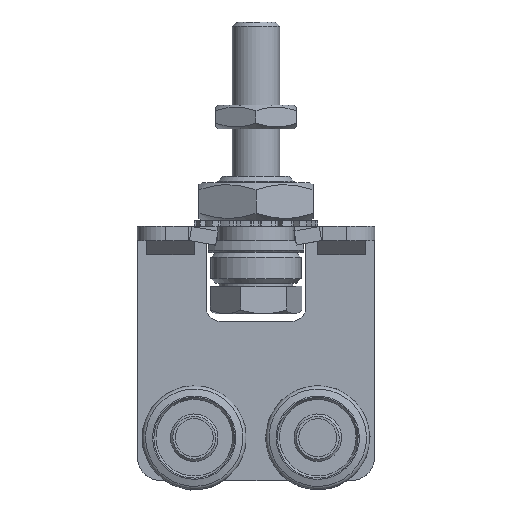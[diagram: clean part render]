
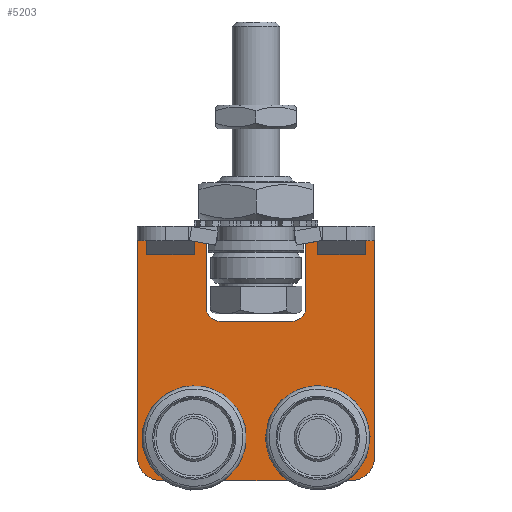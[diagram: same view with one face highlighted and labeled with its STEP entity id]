
A CAD part, top view. The second image highlights one B-rep face of the part: STEP entity #5203.
In plain terms, the highlighted planar face has unit normal (0, 0, 1).
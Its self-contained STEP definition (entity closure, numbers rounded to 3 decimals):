
#177=FACE_BOUND('',#1024,.T.);
#178=FACE_BOUND('',#1025,.T.);
#249=CIRCLE('',#5508,3.05);
#251=CIRCLE('',#5514,3.05);
#253=CIRCLE('',#5520,5.);
#255=CIRCLE('',#5524,5.);
#257=CIRCLE('',#5534,3.);
#259=CIRCLE('',#5538,3.);
#708=FACE_OUTER_BOUND('',#1023,.T.);
#1023=EDGE_LOOP('',(#3679,#3680,#3681,#3682,#3683,#3684,#3685,#3686,#3687,
#3688,#3689,#3690,#3691,#3692,#3693,#3694,#3695,#3696,#3697,#3698));
#1024=EDGE_LOOP('',(#3699,#3700,#3701,#3702));
#1025=EDGE_LOOP('',(#3703,#3704,#3705,#3706));
#1400=LINE('',#7833,#1840);
#1403=LINE('',#7839,#1843);
#1406=LINE('',#7844,#1846);
#1410=LINE('',#7857,#1850);
#1413=LINE('',#7863,#1853);
#1416=LINE('',#7868,#1856);
#1420=LINE('',#7881,#1860);
#1424=LINE('',#7893,#1864);
#1427=LINE('',#7899,#1867);
#1430=LINE('',#7905,#1870);
#1433=LINE('',#7911,#1873);
#1436=LINE('',#7917,#1876);
#1439=LINE('',#7923,#1879);
#1442=LINE('',#7929,#1882);
#1446=LINE('',#7941,#1886);
#1450=LINE('',#7953,#1890);
#1453=LINE('',#7959,#1893);
#1456=LINE('',#7965,#1896);
#1459=LINE('',#7971,#1899);
#1462=LINE('',#7977,#1902);
#1465=LINE('',#7983,#1905);
#1468=LINE('',#7988,#1908);
#1840=VECTOR('',#6180,6.3);
#1843=VECTOR('',#6185,6.1);
#1846=VECTOR('',#6190,6.3);
#1850=VECTOR('',#6202,6.3);
#1853=VECTOR('',#6207,6.1);
#1856=VECTOR('',#6212,6.3);
#1860=VECTOR('',#6224,40.);
#1864=VECTOR('',#6236,45.5);
#1867=VECTOR('',#6241,2.5);
#1870=VECTOR('',#6246,3.);
#1873=VECTOR('',#6251,9.5);
#1876=VECTOR('',#6256,3.);
#1879=VECTOR('',#6261,2.5);
#1882=VECTOR('',#6266,14.);
#1886=VECTOR('',#6278,15.);
#1890=VECTOR('',#6290,14.);
#1893=VECTOR('',#6295,2.5);
#1896=VECTOR('',#6300,3.);
#1899=VECTOR('',#6305,9.5);
#1902=VECTOR('',#6310,3.);
#1905=VECTOR('',#6315,2.5);
#1908=VECTOR('',#6320,45.5);
#2266=VERTEX_POINT('',#7823);
#2267=VERTEX_POINT('',#7824);
#2270=VERTEX_POINT('',#7832);
#2272=VERTEX_POINT('',#7838);
#2274=VERTEX_POINT('',#7847);
#2275=VERTEX_POINT('',#7848);
#2278=VERTEX_POINT('',#7856);
#2280=VERTEX_POINT('',#7862);
#2282=VERTEX_POINT('',#7871);
#2283=VERTEX_POINT('',#7872);
#2286=VERTEX_POINT('',#7880);
#2288=VERTEX_POINT('',#7886);
#2290=VERTEX_POINT('',#7892);
#2292=VERTEX_POINT('',#7898);
#2294=VERTEX_POINT('',#7904);
#2296=VERTEX_POINT('',#7910);
#2298=VERTEX_POINT('',#7916);
#2300=VERTEX_POINT('',#7922);
#2302=VERTEX_POINT('',#7928);
#2304=VERTEX_POINT('',#7934);
#2306=VERTEX_POINT('',#7940);
#2308=VERTEX_POINT('',#7946);
#2310=VERTEX_POINT('',#7952);
#2312=VERTEX_POINT('',#7958);
#2314=VERTEX_POINT('',#7964);
#2316=VERTEX_POINT('',#7970);
#2318=VERTEX_POINT('',#7976);
#2320=VERTEX_POINT('',#7982);
#2787=EDGE_CURVE('',#2266,#2267,#249,.T.);
#2791=EDGE_CURVE('',#2267,#2270,#1400,.T.);
#2794=EDGE_CURVE('',#2270,#2272,#1403,.T.);
#2797=EDGE_CURVE('',#2272,#2266,#1406,.T.);
#2799=EDGE_CURVE('',#2274,#2275,#251,.T.);
#2803=EDGE_CURVE('',#2275,#2278,#1410,.T.);
#2806=EDGE_CURVE('',#2278,#2280,#1413,.T.);
#2809=EDGE_CURVE('',#2280,#2274,#1416,.T.);
#2811=EDGE_CURVE('',#2282,#2283,#253,.T.);
#2815=EDGE_CURVE('',#2283,#2286,#1420,.T.);
#2818=EDGE_CURVE('',#2286,#2288,#255,.T.);
#2821=EDGE_CURVE('',#2288,#2290,#1424,.T.);
#2824=EDGE_CURVE('',#2290,#2292,#1427,.T.);
#2827=EDGE_CURVE('',#2292,#2294,#1430,.T.);
#2830=EDGE_CURVE('',#2294,#2296,#1433,.T.);
#2833=EDGE_CURVE('',#2296,#2298,#1436,.T.);
#2836=EDGE_CURVE('',#2298,#2300,#1439,.T.);
#2839=EDGE_CURVE('',#2300,#2302,#1442,.T.);
#2842=EDGE_CURVE('',#2302,#2304,#257,.T.);
#2845=EDGE_CURVE('',#2304,#2306,#1446,.T.);
#2848=EDGE_CURVE('',#2306,#2308,#259,.T.);
#2851=EDGE_CURVE('',#2308,#2310,#1450,.T.);
#2854=EDGE_CURVE('',#2310,#2312,#1453,.T.);
#2857=EDGE_CURVE('',#2312,#2314,#1456,.T.);
#2860=EDGE_CURVE('',#2314,#2316,#1459,.T.);
#2863=EDGE_CURVE('',#2316,#2318,#1462,.T.);
#2866=EDGE_CURVE('',#2318,#2320,#1465,.T.);
#2869=EDGE_CURVE('',#2320,#2282,#1468,.T.);
#3679=ORIENTED_EDGE('',*,*,#2811,.F.);
#3680=ORIENTED_EDGE('',*,*,#2869,.F.);
#3681=ORIENTED_EDGE('',*,*,#2866,.F.);
#3682=ORIENTED_EDGE('',*,*,#2863,.F.);
#3683=ORIENTED_EDGE('',*,*,#2860,.F.);
#3684=ORIENTED_EDGE('',*,*,#2857,.F.);
#3685=ORIENTED_EDGE('',*,*,#2854,.F.);
#3686=ORIENTED_EDGE('',*,*,#2851,.F.);
#3687=ORIENTED_EDGE('',*,*,#2848,.F.);
#3688=ORIENTED_EDGE('',*,*,#2845,.F.);
#3689=ORIENTED_EDGE('',*,*,#2842,.F.);
#3690=ORIENTED_EDGE('',*,*,#2839,.F.);
#3691=ORIENTED_EDGE('',*,*,#2836,.F.);
#3692=ORIENTED_EDGE('',*,*,#2833,.F.);
#3693=ORIENTED_EDGE('',*,*,#2830,.F.);
#3694=ORIENTED_EDGE('',*,*,#2827,.F.);
#3695=ORIENTED_EDGE('',*,*,#2824,.F.);
#3696=ORIENTED_EDGE('',*,*,#2821,.F.);
#3697=ORIENTED_EDGE('',*,*,#2818,.F.);
#3698=ORIENTED_EDGE('',*,*,#2815,.F.);
#3699=ORIENTED_EDGE('',*,*,#2787,.T.);
#3700=ORIENTED_EDGE('',*,*,#2791,.T.);
#3701=ORIENTED_EDGE('',*,*,#2794,.T.);
#3702=ORIENTED_EDGE('',*,*,#2797,.T.);
#3703=ORIENTED_EDGE('',*,*,#2799,.T.);
#3704=ORIENTED_EDGE('',*,*,#2803,.T.);
#3705=ORIENTED_EDGE('',*,*,#2806,.T.);
#3706=ORIENTED_EDGE('',*,*,#2809,.T.);
#5025=PLANE('',#5547);
#5203=ADVANCED_FACE('',(#708,#177,#178),#5025,.T.);
#5508=AXIS2_PLACEMENT_3D('',#7825,#6172,#6173);
#5514=AXIS2_PLACEMENT_3D('',#7849,#6194,#6195);
#5520=AXIS2_PLACEMENT_3D('',#7873,#6216,#6217);
#5524=AXIS2_PLACEMENT_3D('',#7887,#6229,#6230);
#5534=AXIS2_PLACEMENT_3D('',#7935,#6271,#6272);
#5538=AXIS2_PLACEMENT_3D('',#7947,#6283,#6284);
#5547=AXIS2_PLACEMENT_3D('',#7990,#6322,#6323);
#6172=DIRECTION('center_axis',(0.,0.,-1.));
#6173=DIRECTION('ref_axis',(1.,0.,0.));
#6180=DIRECTION('',(0.,-1.,0.));
#6185=DIRECTION('',(-1.,0.,0.));
#6190=DIRECTION('',(0.,1.,0.));
#6194=DIRECTION('center_axis',(0.,0.,-1.));
#6195=DIRECTION('ref_axis',(1.,0.,0.));
#6202=DIRECTION('',(0.,-1.,0.));
#6207=DIRECTION('',(-1.,0.,0.));
#6212=DIRECTION('',(0.,1.,0.));
#6216=DIRECTION('center_axis',(0.,0.,-1.));
#6217=DIRECTION('ref_axis',(0.,-1.,0.));
#6224=DIRECTION('',(1.,0.,0.));
#6229=DIRECTION('center_axis',(0.,0.,-1.));
#6230=DIRECTION('ref_axis',(-1.,0.,0.));
#6236=DIRECTION('',(0.,-1.,0.));
#6241=DIRECTION('',(-1.,0.,0.));
#6246=DIRECTION('',(0.,-1.,0.));
#6251=DIRECTION('',(-1.,0.,0.));
#6256=DIRECTION('',(0.,1.,0.));
#6261=DIRECTION('',(-1.,0.,0.));
#6266=DIRECTION('',(0.,1.,0.));
#6271=DIRECTION('center_axis',(0.,0.,1.));
#6272=DIRECTION('ref_axis',(1.,0.,0.));
#6278=DIRECTION('',(-1.,0.,0.));
#6283=DIRECTION('center_axis',(0.,0.,1.));
#6284=DIRECTION('ref_axis',(0.,1.,0.));
#6290=DIRECTION('',(0.,-1.,0.));
#6295=DIRECTION('',(-1.,0.,0.));
#6300=DIRECTION('',(0.,-1.,0.));
#6305=DIRECTION('',(-1.,0.,0.));
#6310=DIRECTION('',(0.,1.,0.));
#6315=DIRECTION('',(-1.,0.,0.));
#6320=DIRECTION('',(0.,1.,0.));
#6322=DIRECTION('center_axis',(0.,0.,1.));
#6323=DIRECTION('ref_axis',(1.,0.,0.));
#7823=CARTESIAN_POINT('',(9.95,0.,3.));
#7824=CARTESIAN_POINT('',(16.05,0.,3.));
#7825=CARTESIAN_POINT('Origin',(13.,0.,3.));
#7832=CARTESIAN_POINT('',(16.05,-6.3,3.));
#7833=CARTESIAN_POINT('',(16.05,-9.549,3.));
#7838=CARTESIAN_POINT('',(9.95,-6.3,3.));
#7839=CARTESIAN_POINT('',(8.025,-6.3,3.));
#7844=CARTESIAN_POINT('',(9.95,-12.699,3.));
#7847=CARTESIAN_POINT('',(-16.05,0.,3.));
#7848=CARTESIAN_POINT('',(-9.95,0.,3.));
#7849=CARTESIAN_POINT('Origin',(-13.,0.,3.));
#7856=CARTESIAN_POINT('',(-9.95,-6.3,3.));
#7857=CARTESIAN_POINT('',(-9.95,-9.549,3.));
#7862=CARTESIAN_POINT('',(-16.05,-6.3,3.));
#7863=CARTESIAN_POINT('',(-4.975,-6.3,3.));
#7868=CARTESIAN_POINT('',(-16.05,-12.699,3.));
#7871=CARTESIAN_POINT('',(-25.,4.,3.));
#7872=CARTESIAN_POINT('',(-20.,9.,3.));
#7873=CARTESIAN_POINT('Origin',(-20.,4.,3.));
#7880=CARTESIAN_POINT('',(20.,9.,3.));
#7881=CARTESIAN_POINT('',(-20.,9.,3.));
#7886=CARTESIAN_POINT('',(25.,4.,3.));
#7887=CARTESIAN_POINT('Origin',(20.,4.,3.));
#7892=CARTESIAN_POINT('',(25.,-41.5,3.));
#7893=CARTESIAN_POINT('',(25.,4.,3.));
#7898=CARTESIAN_POINT('',(22.5,-41.5,3.));
#7899=CARTESIAN_POINT('',(25.,-41.5,3.));
#7904=CARTESIAN_POINT('',(22.5,-44.5,3.));
#7905=CARTESIAN_POINT('',(22.5,-41.5,3.));
#7910=CARTESIAN_POINT('',(13.,-44.5,3.));
#7911=CARTESIAN_POINT('',(22.5,-44.5,3.));
#7916=CARTESIAN_POINT('',(13.,-41.5,3.));
#7917=CARTESIAN_POINT('',(13.,-44.5,3.));
#7922=CARTESIAN_POINT('',(10.5,-41.5,3.));
#7923=CARTESIAN_POINT('',(13.,-41.5,3.));
#7928=CARTESIAN_POINT('',(10.5,-27.5,3.));
#7929=CARTESIAN_POINT('',(10.5,-41.5,3.));
#7934=CARTESIAN_POINT('',(7.5,-24.5,3.));
#7935=CARTESIAN_POINT('Origin',(7.5,-27.5,3.));
#7940=CARTESIAN_POINT('',(-7.5,-24.5,3.));
#7941=CARTESIAN_POINT('',(7.5,-24.5,3.));
#7946=CARTESIAN_POINT('',(-10.5,-27.5,3.));
#7947=CARTESIAN_POINT('Origin',(-7.5,-27.5,3.));
#7952=CARTESIAN_POINT('',(-10.5,-41.5,3.));
#7953=CARTESIAN_POINT('',(-10.5,-27.5,3.));
#7958=CARTESIAN_POINT('',(-13.,-41.5,3.));
#7959=CARTESIAN_POINT('',(-10.5,-41.5,3.));
#7964=CARTESIAN_POINT('',(-13.,-44.5,3.));
#7965=CARTESIAN_POINT('',(-13.,-41.5,3.));
#7970=CARTESIAN_POINT('',(-22.5,-44.5,3.));
#7971=CARTESIAN_POINT('',(-13.,-44.5,3.));
#7976=CARTESIAN_POINT('',(-22.5,-41.5,3.));
#7977=CARTESIAN_POINT('',(-22.5,-44.5,3.));
#7982=CARTESIAN_POINT('',(-25.,-41.5,3.));
#7983=CARTESIAN_POINT('',(-22.5,-41.5,3.));
#7988=CARTESIAN_POINT('',(-25.,-41.5,3.));
#7990=CARTESIAN_POINT('Origin',(0.,-19.098,
3.));
